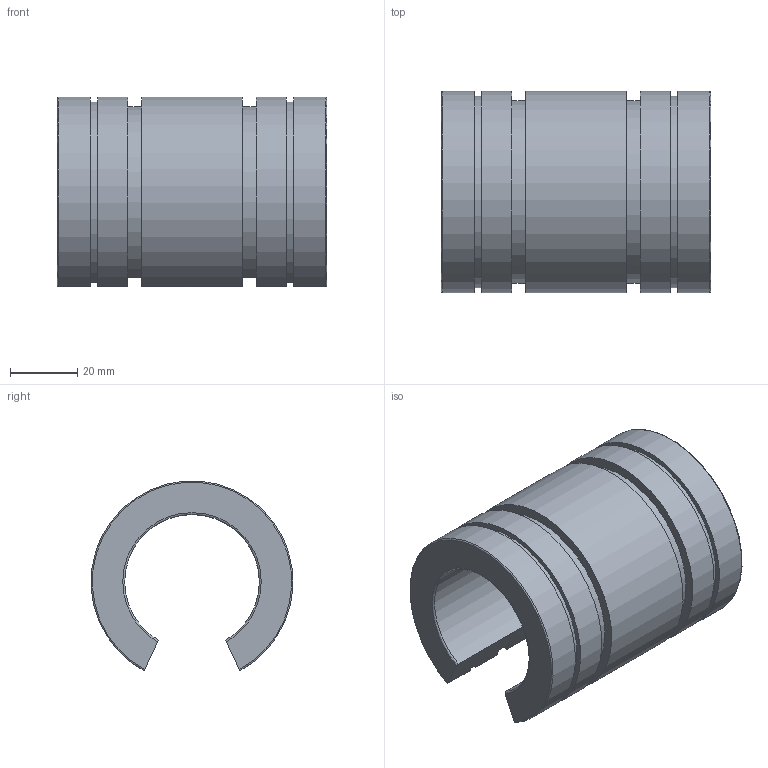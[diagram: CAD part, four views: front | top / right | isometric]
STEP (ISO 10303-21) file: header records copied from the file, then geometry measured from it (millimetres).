
FILE_DESCRIPTION(('STEP AP203'),'1');
FILE_NAME('//192.168.1.1/share/s-4 技術開発/s-4-4_CAD/s-4-4-3_見直し済み/PBC LINEAR修正済み/FJN/FJN_TOP/FJN40.step','2022-03-24T07:42:41',(' '),(' '),'Spatial InterOp 3D',' ',' ');
FILE_SCHEMA(('CONFIG_CONTROL_DESIGN'));
Length unit declared in the file: millimetre
Products named in the file (1): 1
Bounding box: 80 x 59.92 x 56.3 mm (x, y, z)
Volume: 100784.9 mm3; surface area: 27668.7 mm2
Topology: 1 solids, 1 shells, 26 faces, 72 edges, 48 vertices
Faces by surface type: plane 12, cylinder 10, torus 4
Entity records: 908 total; most frequent: CARTESIAN_POINT 187, ORIENTED_EDGE 144, DIRECTION 142, EDGE_CURVE 72, AXIS2_PLACEMENT_3D 51, VERTEX_POINT 48, LINE 40, VECTOR 40
